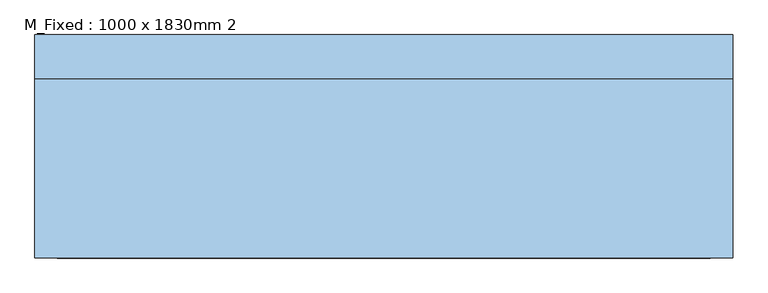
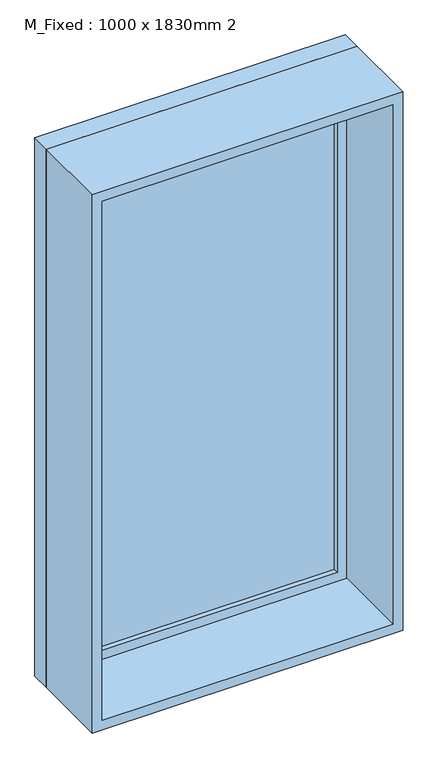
"""IFC4 building model written with IfcOpenShell, lengths in millimetres: window geometry, M_Fixed : 1000 x 1830mm 2."""

from ifc_helpers import new_model, si_unit, frame, origin, place, context, project, spatial, polyline, outline, extrude, source, transform, mapped, element, save


def m_fixed_1000_x_1830mm_2_ae03b894(model_context):
    return source(origin(), model_context, "Body", "SweptSolid", [
        extrude(outline(polyline([(-437.0, 138.0), (437.0, 138.0), (437.0, 126.0), (-437.0, 126.0), (-437.0, 138.0)])), frame((0.0, 0.0, 368.0), z_axis=(0.0, 0.0, 1.0), x_axis=(1.0, 0.0, 0.0)), (0.0, 0.0, 1.0), 1704.0),
        extrude(outline(polyline([(2116.0, -481.0), (324.0, -481.0), (324.0, 481.0), (2116.0, 481.0), (2116.0, -481.0)]), holes=[polyline([(2072.0, -437.0), (2072.0, 437.0), (368.0, 437.0), (368.0, -437.0), (2072.0, -437.0)])]), frame((0.0, 110.0, 0.0), z_axis=(0.0, 1.0, 0.0), x_axis=(0.0, 0.0, 1.0)), (0.0, 0.0, 1.0), 44.0),
        extrude(outline(polyline([(2135.0, -500.0), (305.0, -500.0), (305.0, 500.0), (2135.0, 500.0), (2135.0, -500.0)]), holes=[polyline([(2116.0, -481.0), (2116.0, 481.0), (324.0, 481.0), (324.0, -481.0), (2116.0, -481.0)])]), frame((0.0, 110.0, 0.0), z_axis=(0.0, 1.0, 0.0), x_axis=(0.0, 0.0, 1.0)), (0.0, 0.0, 1.0), 63.0),
        extrude(outline(polyline([(2135.0, -500.0), (305.0, -500.0), (305.0, 500.0), (2135.0, 500.0), (2135.0, -500.0)]), holes=[polyline([(2103.0, -468.0), (2103.0, 468.0), (337.0, 468.0), (337.0, -468.0), (2103.0, -468.0)])]), frame((0.0, -147.0, 0.0), z_axis=(0.0, 1.0, 0.0), x_axis=(0.0, 0.0, 1.0)), (0.0, 0.0, 1.0), 257.0),
    ])


if __name__ == "__main__":
    model = new_model("IFC4")
    model_context = context("Model", 3, world=origin())
    ifc_project = project(units=[si_unit("LENGTHUNIT", "METRE", prefix="MILLI")], contexts=[model_context])
    site = spatial("IfcSite", under=ifc_project)
    building = spatial("IfcBuilding", under=site)
    placement = place(None, origin())
    m_fixed_1000_x_1830mm_2_shape = m_fixed_1000_x_1830mm_2_ae03b894(model_context)
    element("IfcWindow", 1, ObjectType="M_Fixed : 1000 x 1830mm 2", at=placement, inside=building, context=model_context, shape_type="MappedRepresentation", body=[
        mapped(m_fixed_1000_x_1830mm_2_shape, transform((0.0, 0.0, 0.0), x_axis=(1.0, 0.0, 0.0), y_axis=(0.0, 1.0, 0.0), z_axis=(0.0, 0.0, 1.0))),
    ])
    save(model, "model.ifc")
